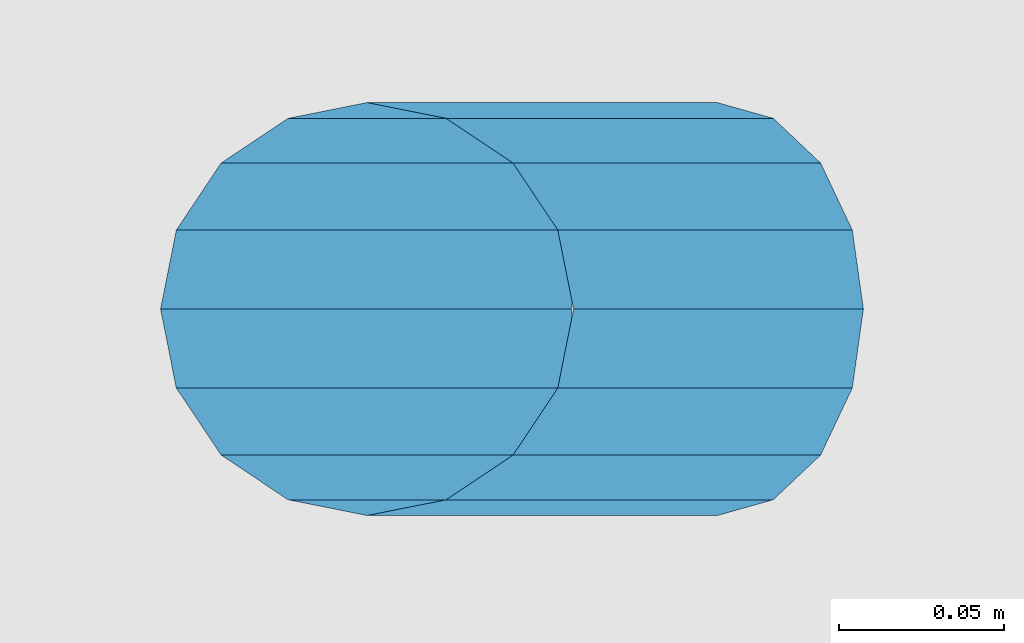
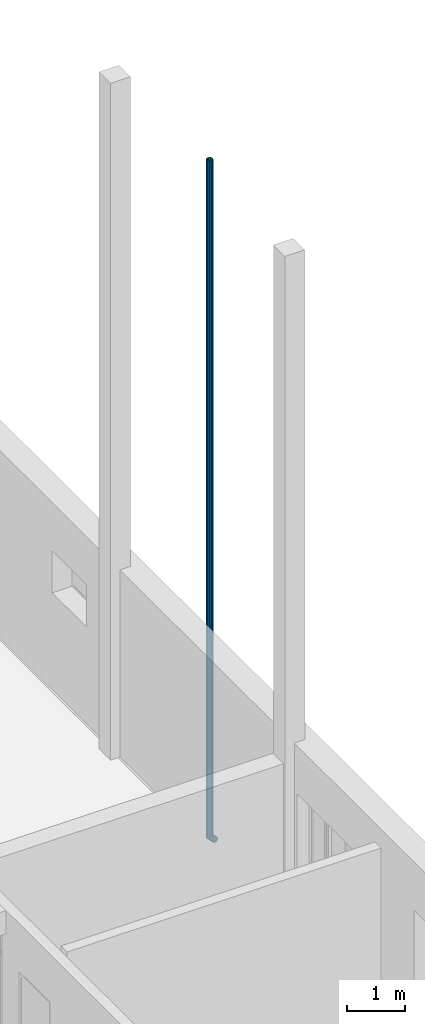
# One storey, part 26 of 89: 1 discrete accessory.
"""IFC2X3 building model written with IfcOpenShell, lengths in millimetres."""

from ifc_helpers import new_model, entity, si_unit, converted_unit, derived_unit, money_unit, direction, frame, origin_with_axes, place, context, subcontext, project, spatial, open_shell, surface_model, source, transform, mapped, type_object, element, save


model = new_model("IFC2X3")

# Units and contexts
model_context = context("Model", 3, precision=0.01, world=origin_with_axes(), true_north=direction((0.0, 1.0)))
body_context = subcontext(model_context, "Body", "Model", "MODEL_VIEW")
ifc_project = project(units=[si_unit("LENGTHUNIT", "METRE", prefix="MILLI"), si_unit("AREAUNIT", "SQUARE_METRE"), si_unit("VOLUMEUNIT", "CUBIC_METRE"), converted_unit("PLANEANGLEUNIT", "DEGREE", entity("IfcPlaneAngleMeasure", 0.0174532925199), si_unit("PLANEANGLEUNIT", "RADIAN"), dimensions=[0, 0, 0, 0, 0, 0, 0]), si_unit("SOLIDANGLEUNIT", "STERADIAN"), money_unit("EUR"), converted_unit("TIMEUNIT", "Year", entity("IfcTimeMeasure", 31556926.0), si_unit("TIMEUNIT", "SECOND"), dimensions=[0, 0, 1, 0, 0, 0, 0]), si_unit("MASSUNIT", "GRAM", prefix="KILO"), si_unit("THERMODYNAMICTEMPERATUREUNIT", "DEGREE_CELSIUS"), si_unit("LUMINOUSINTENSITYUNIT", "LUMEN"), si_unit("ENERGYUNIT", "JOULE", prefix="MEGA"), derived_unit("THERMALCONDUCTANCEUNIT", [(si_unit("POWERUNIT", "WATT"), 1), (si_unit("LENGTHUNIT", "METRE"), -1), (si_unit("THERMODYNAMICTEMPERATUREUNIT", "KELVIN"), -1)]), derived_unit("SPECIFICHEATCAPACITYUNIT", [(si_unit("ENERGYUNIT", "JOULE"), 1), (si_unit("MASSUNIT", "GRAM", prefix="KILO"), -1), (si_unit("THERMODYNAMICTEMPERATUREUNIT", "KELVIN"), -1)]), derived_unit("MASSDENSITYUNIT", [(si_unit("MASSUNIT", "GRAM", prefix="KILO"), 1), (si_unit("VOLUMEUNIT", "CUBIC_METRE"), -1)])], contexts=[model_context])

# Site, building, storey
site_placement = place(None, origin_with_axes())
site = spatial("IfcSite", under=ifc_project, at=site_placement, Name="Puškini 31, Narva", CompositionType="ELEMENT")
building_placement = place(site_placement, origin_with_axes())
building = spatial("IfcBuilding", under=site, at=building_placement, Name="Narva Riigigümnaasium", CompositionType="ELEMENT")
storey_placement = place(building_placement, frame((0.0, 0.0, -3300.0), z_axis=(0.0, 0.0, 1.0), x_axis=(1.0, 0.0, 0.0)))
storey = spatial("IfcBuildingStorey", under=building, at=storey_placement, Name="1.korrus -3.3", CompositionType="ELEMENT", Elevation=-3300.0)

# Discrete accessory
discrete_accessory_type = type_object("IfcDiscreteAccessoryType", Name="Downspout Complex 23")
shared_shape = source(origin_with_axes(), body_context, "Body", "SurfaceModel", [
    surface_model("IfcShellBasedSurfaceModel", [(62.5, -37.5, 250.260191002), (62.5, -37.5, 150.260191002), (57.742470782, -13.5822854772, 140.353149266), (57.742470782, -13.5822854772, 250.260191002), (57.742470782, -61.4177145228, 250.260191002), (57.742470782, -61.4177145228, 160.167232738), (62.5, -143.566017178, 44.1941738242), (57.742470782, -126.653639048, 27.2817956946), (44.1941738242, 6.69417382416, 131.954364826), (44.1941738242, 6.69417382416, 250.260191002), (44.1941738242, -81.6941738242, 250.260191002), (44.1941738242, -81.6941738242, 168.566017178), (57.742470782, -160.478395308, 61.1065519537), (44.1941738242, -112.316017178, 12.9441738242), (23.9177145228, 20.242470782, 126.342476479), (23.9177145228, 20.242470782, 250.260191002), (23.9177145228, -95.242470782, 250.260191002), (23.9177145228, -95.242470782, 174.177905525), (44.1941738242, -174.816017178, 75.4441738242), (23.9177145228, -102.735924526, 3.36408117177), (0.0, 25.0, 124.371843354), (0.0, 25.0, 250.260191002), (0.0, -100.0, 250.260191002), (0.0, -100.0, 176.14853865), (23.9177145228, -184.39610983, 85.0242664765), (0.0, -99.3718433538, 0.0), (-23.9177145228, 20.242470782, 126.342476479), (-23.9177145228, 20.242470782, 250.260191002), (-23.9177145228, -95.242470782, 250.260191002), (-23.9177145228, -95.242470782, 174.177905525), (0.0, -187.760191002, 88.3883476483), (-23.9177145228, -102.735924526, 3.36408117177), (-44.1941738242, 6.69417382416, 131.954364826), (-44.1941738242, 6.69417382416, 250.260191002), (-44.1941738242, -81.6941738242, 250.260191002), (-44.1941738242, -81.6941738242, 168.566017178), (-23.9177145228, -184.39610983, 85.0242664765), (-44.1941738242, -112.316017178, 12.9441738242), (-57.742470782, -13.5822854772, 140.353149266), (-57.742470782, -13.5822854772, 250.260191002), (-57.742470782, -61.4177145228, 250.260191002), (-57.742470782, -61.4177145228, 160.167232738), (-44.1941738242, -174.816017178, 75.4441738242), (-57.742470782, -126.653639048, 27.2817956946), (-62.5, -37.5, 150.260191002), (-62.5, -37.5, 250.260191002), (-57.742470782, -160.478395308, 61.1065519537), (-62.5, -143.566017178, 44.1941738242)], [open_shell([[[0, 1, 2, 3]], [[4, 5, 1, 0]], [[1, 6, 7, 2]], [[3, 2, 8, 9]], [[10, 11, 5, 4]], [[5, 12, 6, 1]], [[2, 7, 13, 8]], [[9, 8, 14, 15]], [[16, 17, 11, 10]], [[11, 18, 12, 5]], [[8, 13, 19, 14]], [[15, 14, 20, 21]], [[22, 23, 17, 16]], [[17, 24, 18, 11]], [[14, 19, 25, 20]], [[21, 20, 26, 27]], [[28, 29, 23, 22]], [[23, 30, 24, 17]], [[20, 25, 31, 26]], [[27, 26, 32, 33]], [[34, 35, 29, 28]], [[29, 36, 30, 23]], [[26, 31, 37, 32]], [[33, 32, 38, 39]], [[40, 41, 35, 34]], [[35, 42, 36, 29]], [[32, 37, 43, 38]], [[39, 38, 44, 45]], [[45, 44, 41, 40]], [[41, 46, 42, 35]], [[38, 43, 47, 44]], [[44, 47, 46, 41]]])]),
    surface_model("IfcShellBasedSurfaceModel", [(-62.5, -37.5, 14475.5445044), (-62.5, -37.5, 250.260191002), (-57.742470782, -61.4177145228, 250.260191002), (-57.742470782, -61.4177145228, 14475.5445044), (-57.742470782, -13.5822854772, 14475.5445044), (-57.742470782, -13.5822854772, 250.260191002), (-44.1941738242, -81.6941738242, 250.260191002), (-44.1941738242, -81.6941738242, 14475.5445044), (-44.1941738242, 6.69417382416, 14475.5445044), (-44.1941738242, 6.69417382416, 250.260191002), (-23.9177145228, -95.242470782, 250.260191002), (-23.9177145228, -95.242470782, 14475.5445044), (-23.9177145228, 20.242470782, 14475.5445044), (-23.9177145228, 20.242470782, 250.260191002), (0.0, -100.0, 250.260191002), (0.0, -100.0, 14475.5445044), (0.0, 25.0, 14475.5445044), (0.0, 25.0, 250.260191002), (23.9177145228, -95.242470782, 250.260191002), (23.9177145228, -95.242470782, 14475.5445044), (23.9177145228, 20.242470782, 14475.5445044), (23.9177145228, 20.242470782, 250.260191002), (44.1941738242, -81.6941738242, 250.260191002), (44.1941738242, -81.6941738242, 14475.5445044), (44.1941738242, 6.69417382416, 14475.5445044), (44.1941738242, 6.69417382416, 250.260191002), (57.742470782, -61.4177145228, 250.260191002), (57.742470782, -61.4177145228, 14475.5445044), (57.742470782, -13.5822854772, 14475.5445044), (57.742470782, -13.5822854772, 250.260191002), (62.5, -37.5, 250.260191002), (62.5, -37.5, 14475.5445044)], [open_shell([[[0, 1, 2, 3]], [[4, 5, 1, 0]], [[3, 2, 6, 7]], [[8, 9, 5, 4]], [[7, 6, 10, 11]], [[12, 13, 9, 8]], [[11, 10, 14, 15]], [[16, 17, 13, 12]], [[15, 14, 18, 19]], [[20, 21, 17, 16]], [[19, 18, 22, 23]], [[24, 25, 21, 20]], [[23, 22, 26, 27]], [[28, 29, 25, 24]], [[27, 26, 30, 31]], [[31, 30, 29, 28]]])]),
])
discrete_accessory_placement = place(storey_placement, frame((54560.0000017, 245733.385223, -792.139624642), z_axis=(0.0, 0.0, 1.0), x_axis=(0.0, 1.0, 0.0)))
element("IfcDiscreteAccessory", 1, at=discrete_accessory_placement, inside=storey, type_object=discrete_accessory_type, Name="Vihmaveetoru", context=body_context, shape_type="MappedRepresentation", body=[
    mapped(shared_shape, transform((0.0, 0.0, 0.0))),
])

save(model, "model.ifc")
